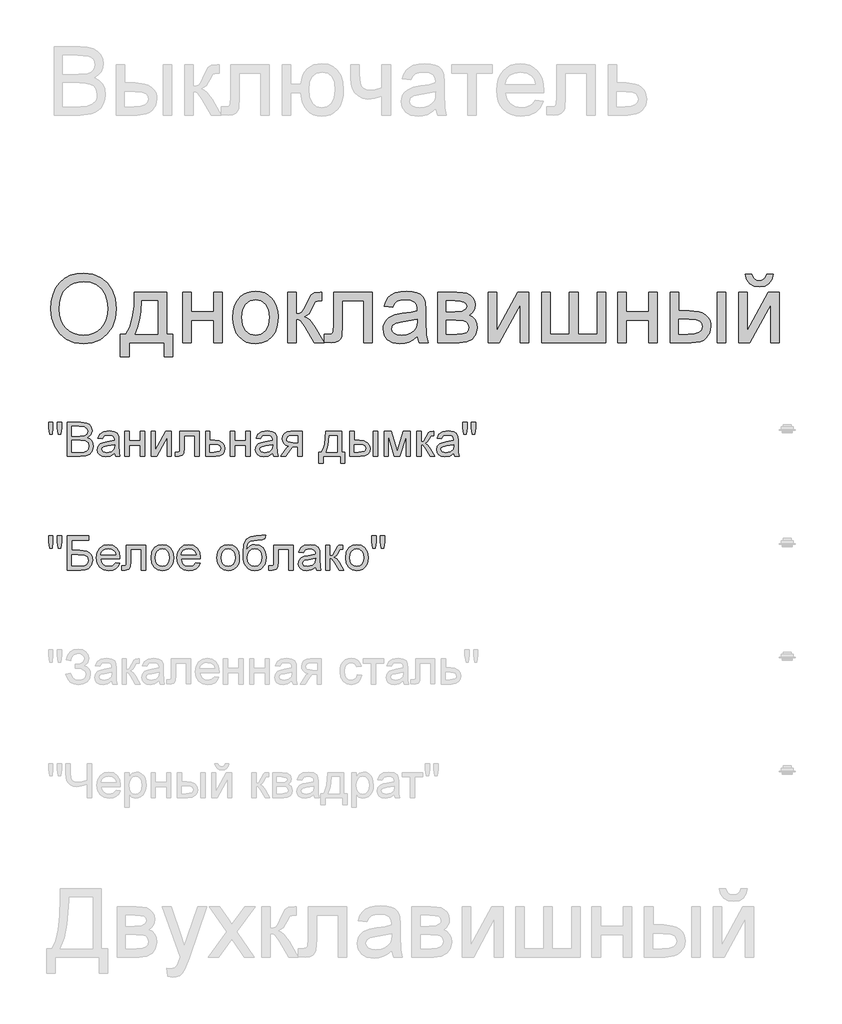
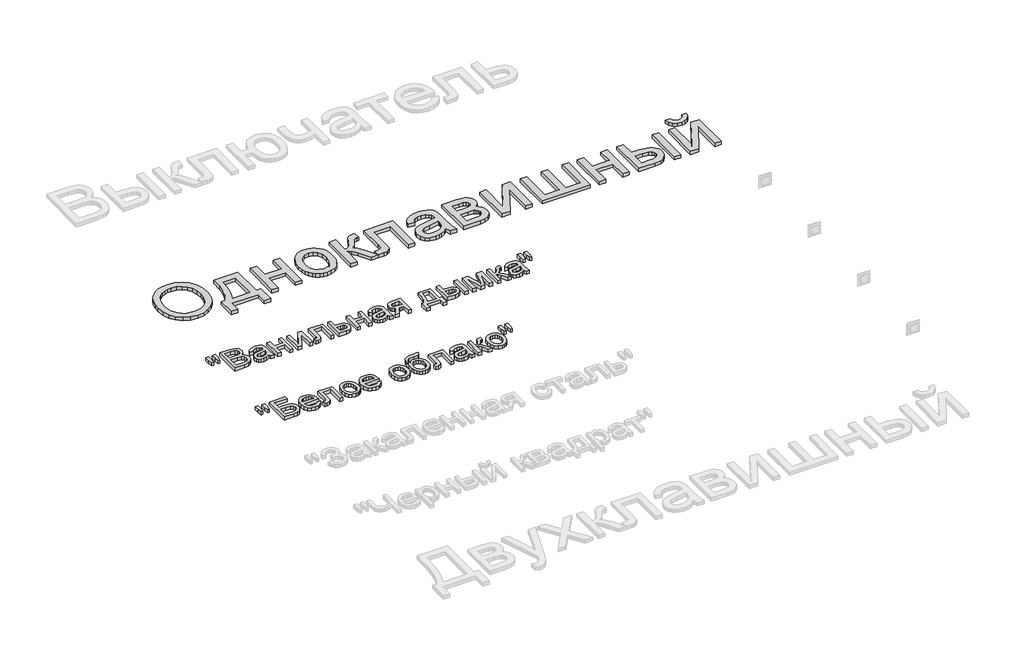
# One storey, part 136 of 168: 3 proxies.
"""IFC4 building model written with IfcOpenShell, lengths in millimetres."""

from ifc_helpers import new_model, si_unit, origin, origin_with_axes, place, context, project, spatial, polyline, outline, extrude, element, save

model = new_model("IFC4")

# Units and contexts
model_context = context("Model", 3, world=origin())
ifc_project = project(units=[si_unit("LENGTHUNIT", "METRE", prefix="MILLI")], contexts=[model_context])

# Site, building, storey
site = spatial("IfcSite", under=ifc_project)
building = spatial("IfcBuilding", under=site)
storey = spatial("IfcBuildingStorey", under=building, Name="Этаж 01", Elevation=0.0)

# Proxies
placement = place(None, origin())
element("IfcBuildingElementProxy", 1, Name="300 мм Arial 2", ObjectType="300 мм Arial 2", at=placement, inside=storey, context=model_context, shape_type="SweptSolid", body=[
    extrude(outline(polyline([(63584.967833, -20701.6943419), (63587.4786277, -20666.3454807), (63595.0110115, -20635.0525185), (63607.5649846, -20607.8154552), (63625.1405469, -20584.634291), (63646.6846363, -20566.1252281), (63671.1441904, -20552.9044689), (63698.5192094, -20544.9720134), (63728.8096932, -20542.3278616), (63768.3386135, -20547.2942685), (63803.7840438, -20562.1934893), (63833.2146034, -20585.9770603), (63854.6989119, -20617.5965178), (63867.8322991, -20655.5251515), (63872.2100949, -20698.2362511), (63867.6023729, -20741.5175679), (63853.7792069, -20779.9796305), (63831.5039521, -20811.6542703), (63801.5399636, -20834.5733186), (63766.398036, -20848.479258), (63728.588964, -20853.1145711), (63688.4530383, -20847.9918143), (63652.805273, -20832.623544), (63623.4482897, -20808.3985146), (63602.1847104, -20776.7054807), (63589.2720524, -20740.2391779), (63584.967833, -20701.6943419)]), holes=[polyline([(63622.6389493, -20702.0622239), (63624.5220453, -20727.0368128), (63630.1713332, -20749.2063016), (63639.586813, -20768.5706901), (63652.7684848, -20785.1299784), (63668.7920449, -20798.3921243), (63686.73319, -20807.8650857), (63706.5919199, -20813.5488625), (63728.3682348, -20815.4434548), (63750.5170301, -20813.5304684), (63770.6102849, -20807.7915093), (63788.6479989, -20798.2265774), (63804.6301724, -20784.8356728), (63817.7152751, -20767.9268966), (63827.061777, -20747.80835), (63832.6696782, -20724.480033), (63834.5389786, -20697.9419455), (63831.3384052, -20664.5934427), (63821.7366851, -20635.7698884), (63805.9821387, -20612.1978495), (63784.3230862, -20594.6038931), (63758.1942675, -20583.6502067), (63729.0304224, -20579.9989779), (63708.0105649, -20581.7579137), (63688.5082206, -20587.034721), (63670.5233895, -20595.8294), (63654.0560717, -20608.1419505), (63640.3110807, -20624.5655823), (63630.4932299, -20645.6935052), (63624.6025195, -20671.525719), (63622.6389493, -20702.0622239)])]), origin_with_axes(), (0.0, 0.0, 1.0), 20.0),
    extrude(outline(polyline([(63952.261217, -20627.0878733), (64093.5279032, -20627.0878733), (64093.5279032, -20810.7345653), (64121.7812404, -20810.7345653), (64121.7812404, -20909.6212456), (64084.1101241, -20909.6212456), (64084.1101241, -20848.4056816), (63928.7167693, -20848.4056816), (63928.7167693, -20909.6212456), (63891.045653, -20909.6212456), (63891.045653, -20810.7345653), (63914.5901007, -20810.7345653), (63931.7058105, -20779.8048865), (63943.6895665, -20738.8872116), (63950.5413687, -20687.9815405), (63952.261217, -20627.0878733)]), holes=[polyline([(63985.2234438, -20664.7589896), (63982.133235, -20710.8821947), (63976.3942759, -20750.5858591), (63968.0065664, -20783.8699826), (63956.9701066, -20810.7345653), (64055.8567869, -20810.7345653), (64055.8567869, -20664.7589896), (63985.2234438, -20664.7589896)])]), origin_with_axes(), (0.0, 0.0, 1.0), 20.0),
    extrude(outline(polyline([(64164.1612462, -20627.0878733), (64201.8323626, -20627.0878733), (64201.8323626, -20711.847885), (64300.7190429, -20711.847885), (64300.7190429, -20627.0878733), (64338.3901592, -20627.0878733), (64338.3901592, -20848.4056816), (64300.7190429, -20848.4056816), (64300.7190429, -20749.5190013), (64201.8323626, -20749.5190013), (64201.8323626, -20848.4056816), (64164.1612462, -20848.4056816), (64164.1612462, -20627.0878733)])), origin_with_axes(), (0.0, 0.0, 1.0), 20.0),
    extrude(outline(polyline([(64385.4790545, -20737.7467774), (64387.5162011, -20709.0841715), (64393.6276407, -20684.385494), (64403.8133735, -20663.6507451), (64418.0733993, -20646.8799246), (64432.4299942, -20636.160763), (64448.2765111, -20628.504219), (64465.6129501, -20623.9102925), (64484.4393113, -20622.3789837), (64505.2223447, -20624.2436856), (64524.0142169, -20629.8377912), (64540.8149277, -20639.1613005), (64555.6244773, -20652.2142135), (64567.7117001, -20668.5550719), (64576.3454307, -20687.7424172), (64581.525669, -20709.7762495), (64583.2524152, -20734.6565687), (64580.1989946, -20772.7139611), (64571.0387329, -20801.6846682), (64556.0383446, -20823.3805088), (64535.464544, -20839.6133019), (64511.0279825, -20849.7392538), (64484.4393113, -20853.1145711), (64463.3527751, -20851.256767), (64444.386159, -20845.6833548), (64427.5394629, -20836.3943344), (64412.8126868, -20823.3897059), (64400.8542227, -20806.8901984), (64392.3124626, -20787.1165412), (64387.1874066, -20764.0687342), (64385.4790545, -20737.7467774)]), holes=[polyline([(64423.1501709, -20737.673201), (64427.5095725, -20771.7666649), (64440.5877774, -20796.0560737), (64460.2694642, -20810.5966095), (64484.4393113, -20815.4434548), (64508.4987937, -20810.5690184), (64528.1436923, -20795.9457091), (64541.2218972, -20771.3344036), (64545.5812988, -20736.4959786), (64541.1943061, -20703.3957961), (64528.0333277, -20679.4374812), (64508.360838, -20664.8969453), (64484.4393113, -20660.0501), (64460.2694642, -20664.8785512), (64440.5877774, -20679.3639048), (64427.5095725, -20703.5981312), (64423.1501709, -20737.673201)])]), origin_with_axes(), (0.0, 0.0, 1.0), 20.0),
    extrude(outline(polyline([(64625.632421, -20627.0878733), (64663.3035373, -20627.0878733), (64663.3035373, -20721.265664), (64678.6258224, -20719.5734069), (64688.5402422, -20714.4966353), (64697.3142278, -20701.2528835), (64709.2152103, -20675.0596854), (64726.3952995, -20641.0306009), (64741.5520377, -20629.9573528), (64769.1063991, -20627.0878733), (64776.3168862, -20627.0878733), (64776.3168862, -20664.9797188), (64766.1633432, -20664.7589896), (64747.7692434, -20668.7321151), (64734.8197972, -20693.5273616), (64719.6262708, -20720.345959), (64698.3259032, -20733.4793463), (64710.263674, -20738.7814455), (64722.0910801, -20748.1394438), (64745.4147986, -20779.0231373), (64785.7346653, -20848.4056816), (64742.9132011, -20848.4056816), (64703.4026748, -20780.4946653), (64683.537047, -20751.7630814), (64674.2480267, -20746.5483542), (64663.3035373, -20744.8101117), (64663.3035373, -20848.4056816), (64625.632421, -20848.4056816), (64625.632421, -20627.0878733)])), origin_with_axes(), (0.0, 0.0, 1.0), 20.0),
    extrude(outline(polyline([(64828.1146711, -20627.0878733), (64997.6346945, -20627.0878733), (64997.6346945, -20848.1849524), (64959.9635782, -20848.1849524), (64959.9635782, -20664.7589896), (64865.7857875, -20664.7589896), (64865.7857875, -20770.3411222), (64863.2474017, -20819.0486984), (64858.4925269, -20830.0759612), (64849.3046741, -20839.6133019), (64835.3619464, -20846.2075866), (64816.3424473, -20848.4056816), (64785.7346653, -20846.4926952), (64785.7346653, -20810.7345653), (64802.5836607, -20810.7345653), (64819.6165971, -20808.4169087), (64826.422414, -20801.0592688), (64828.1146711, -20768.2074066), (64828.1146711, -20627.0878733)])), origin_with_axes(), (0.0, 0.0, 1.0), 20.0),
    extrude(outline(polyline([(65195.4080551, -20820.1523443), (65177.4094285, -20835.584994), (65158.877373, -20845.6833548), (65139.3888243, -20851.256767), (65118.5207181, -20853.1145711), (65087.0392164, -20848.6448049), (65063.8166655, -20835.2355061), (65049.4968588, -20814.8732377), (65044.7235899, -20789.5445623), (65046.5262117, -20773.9279716), (65051.934077, -20759.7461207), (65060.2758013, -20747.6060149), (65070.8799998, -20738.1146594), (65097.2571388, -20725.7538244), (65129.8514836, -20720.0884417), (65168.3687285, -20714.1287533), (65195.1873259, -20707.1389954), (65195.4080551, -20698.7512859), (65192.8144871, -20681.9390788), (65185.0337829, -20670.9394071), (65167.6329645, -20662.7724268), (65143.389541, -20660.0501), (65120.9487393, -20661.8619189), (65105.2769663, -20667.2973753), (65094.5899944, -20677.3497509), (65087.1035957, -20693.0123268), (65049.4324794, -20688.3034373), (65055.9715819, -20667.7020455), (65065.7296518, -20651.5152378), (65079.6171971, -20639.1360086), (65098.5447258, -20629.9573528), (65121.6937003, -20624.273576), (65148.2455833, -20622.3789837), (65173.7122145, -20624.0528468), (65193.8997389, -20629.074436), (65209.1208565, -20636.625214), (65219.6882668, -20645.8866432), (65226.6964188, -20657.3369703), (65231.2397615, -20671.4544419), (65233.0791714, -20704.4166687), (65233.0791714, -20751.2848348), (65234.9921578, -20816.7310418), (65242.4969505, -20848.4056816), (65204.8258342, -20848.4056816), (65195.4080551, -20820.1523443)]), holes=[polyline([(65195.4080551, -20744.8101117), (65134.6339495, -20756.3616064), (65102.2235458, -20762.4684475), (65087.5450541, -20772.4012614), (65082.3947062, -20786.895812), (65085.1998064, -20798.0978187), (65093.6151071, -20807.2764745), (65107.4566671, -20813.4017097), (65126.5405456, -20815.4434548), (65146.7740554, -20813.1901776), (65164.6531203, -20806.4303459), (65179.1476709, -20796.4699409), (65189.2276376, -20784.6149436), (65193.6974039, -20772.4012614), (65195.1873259, -20755.4786896), (65195.4080551, -20744.8101117)])]), origin_with_axes(), (0.0, 0.0, 1.0), 20.0),
    extrude(outline(polyline([(65284.8769564, -20627.0878733), (65367.8711345, -20627.0878733), (65394.5517762, -20628.3478691), (65413.3781373, -20632.1278566), (65427.2288944, -20639.2647673), (65438.9827241, -20650.5955328), (65447.0117487, -20665.3567978), (65449.6880902, -20682.7852073), (65448.0694094, -20696.8291025), (65443.2133671, -20708.9416172), (65435.1015691, -20719.1779337), (65423.7156213, -20727.5932344), (65437.658349, -20735.4199238), (65449.0259026, -20748.0106851), (65456.5858776, -20764.3722368), (65459.1058693, -20783.5112976), (65452.7231167, -20812.2244873), (65437.5479844, -20832.439603), (65413.5252901, -20844.4141619), (65380.5998515, -20848.4056816), (65284.8769564, -20848.4056816), (65284.8769564, -20627.0878733)]), holes=[polyline([(65322.5480727, -20711.847885), (65359.7777306, -20711.847885), (65390.4958772, -20709.9348986), (65405.4318862, -20702.2829531), (65410.370702, -20695.9553828), (65412.0169739, -20688.4505901), (65409.1291002, -20677.2117951), (65400.4654792, -20669.9829139), (65384.8121003, -20666.0649707), (65360.954953, -20664.7589896), (65322.5480727, -20664.7589896), (65322.5480727, -20711.847885)]), polyline([(65322.5480727, -20810.7345653), (65368.7540513, -20810.7345653), (65393.9355738, -20809.033111), (65409.7361055, -20803.9287484), (65418.2157855, -20794.648925), (65421.434753, -20780.4210889), (65419.8252692, -20770.9941127), (65414.996818, -20762.2845065), (65407.5839958, -20755.4694925), (65398.2213991, -20751.7262932), (65365.0752313, -20749.5190013), (65322.5480727, -20749.5190013), (65322.5480727, -20810.7345653)])]), origin_with_axes(), (0.0, 0.0, 1.0), 20.0),
    extrude(outline(polyline([(65506.1947647, -20627.0878733), (65543.865881, -20627.0878733), (65543.865881, -20795.8721327), (65636.4249909, -20627.0878733), (65685.1325671, -20627.0878733), (65685.1325671, -20848.4056816), (65647.4614508, -20848.4056816), (65647.4614508, -20680.6514918), (65555.490952, -20848.4056816), (65506.1947647, -20848.4056816), (65506.1947647, -20627.0878733)])), origin_with_axes(), (0.0, 0.0, 1.0), 20.0),
    extrude(outline(polyline([(65741.6392416, -20627.0878733), (65779.3103579, -20627.0878733), (65779.3103579, -20810.7345653), (65864.0703696, -20810.7345653), (65864.0703696, -20627.0878733), (65901.7414859, -20627.0878733), (65901.7414859, -20810.7345653), (65986.5014976, -20810.7345653), (65986.5014976, -20627.0878733), (66024.1726139, -20627.0878733), (66024.1726139, -20848.4056816), (65741.6392416, -20848.4056816), (65741.6392416, -20627.0878733)])), origin_with_axes(), (0.0, 0.0, 1.0), 20.0),
    extrude(outline(polyline([(66075.9703988, -20627.0878733), (66113.6415151, -20627.0878733), (66113.6415151, -20711.847885), (66212.5281954, -20711.847885), (66212.5281954, -20627.0878733), (66250.1993117, -20627.0878733), (66250.1993117, -20848.4056816), (66212.5281954, -20848.4056816), (66212.5281954, -20749.5190013), (66113.6415151, -20749.5190013), (66113.6415151, -20848.4056816), (66075.9703988, -20848.4056816), (66075.9703988, -20627.0878733)])), origin_with_axes(), (0.0, 0.0, 1.0), 20.0),
    extrude(outline(polyline([(66513.8971258, -20627.0878733), (66551.5682421, -20627.0878733), (66551.5682421, -20848.4056816), (66513.8971258, -20848.4056816), (66513.8971258, -20627.0878733)])), origin_with_axes(), (0.0, 0.0, 1.0), 20.0),
    extrude(outline(polyline([(66306.7059862, -20627.0878733), (66344.3771025, -20627.0878733), (66344.3771025, -20707.1389954), (66390.9509631, -20707.1389954), (66431.2064504, -20711.857082), (66447.4231486, -20717.7546902), (66461.0324831, -20726.0113418), (66471.7999293, -20736.3419281), (66479.4909622, -20748.4613405), (66484.105582, -20762.3695792), (66485.6437886, -20778.0666441), (66480.4842436, -20805.0231973), (66465.0056087, -20827.7675016), (66453.1437136, -20836.7967054), (66438.1962083, -20843.2461366), (66399.0443669, -20848.4056816), (66306.7059862, -20848.4056816), (66306.7059862, -20627.0878733)]), holes=[polyline([(66344.3771025, -20810.7345653), (66383.0782884, -20810.7345653), (66413.0790651, -20808.7571995), (66433.0366633, -20802.8251024), (66444.2386701, -20792.6991504), (66447.9726723, -20778.1402205), (66445.2043603, -20765.8345678), (66436.8994243, -20754.9636548), (66419.1399209, -20747.3484975), (66388.0079071, -20744.8101117), (66344.3771025, -20744.8101117), (66344.3771025, -20810.7345653)])]), origin_with_axes(), (0.0, 0.0, 1.0), 20.0),
    extrude(outline(polyline([(66608.0749166, -20627.0878733), (66645.7460329, -20627.0878733), (66645.7460329, -20795.8721327), (66738.3051429, -20627.0878733), (66787.0127191, -20627.0878733), (66787.0127191, -20848.4056816), (66749.3416028, -20848.4056816), (66749.3416028, -20680.6514918), (66657.371104, -20848.4056816), (66608.0749166, -20848.4056816), (66608.0749166, -20627.0878733)])), origin_with_axes(), (0.0, 0.0, 1.0), 20.0),
    extrude(outline(polyline([(66730.5060446, -20547.0367511), (66758.7593818, -20547.0367511), (66752.6801319, -20571.160613), (66740.4756467, -20588.9385104), (66722.6977493, -20599.8921968), (66699.8982626, -20603.5434256), (66675.1581984, -20599.9197879), (66655.9731524, -20589.048875), (66642.8581593, -20571.2985687), (66636.3282538, -20547.0367511), (66664.5815911, -20547.0367511), (66668.5547166, -20559.4435714), (66675.1765925, -20568.2635422), (66684.484007, -20573.5334518), (66696.5137482, -20575.2900883), (66710.0885939, -20573.5886341), (66719.9110431, -20568.4842714), (66726.5329191, -20559.7194829), (66730.5060446, -20547.0367511)])), origin_with_axes(), (0.0, 0.0, 1.0), 20.0),
])
element("IfcBuildingElementProxy", 2, Name="150", ObjectType="150", at=placement, inside=storey, context=model_context, shape_type="SweptSolid", body=[
    extrude(outline(polyline([(63580.1485789, -21251.873446), (63575.550054, -21222.7739802), (63575.550054, -21197.7212163), (63594.3856121, -21197.7212163), (63594.3856121, -21222.7739802), (63590.2653338, -21251.873446), (63580.1485789, -21251.873446)])), origin_with_axes(), (0.0, 0.0, 1.0), 20.0),
    extrude(outline(polyline([(63617.7093306, -21251.873446), (63613.2211703, -21222.7739802), (63613.2211703, -21197.7212163), (63632.0567284, -21197.7212163), (63632.0567284, -21222.7739802), (63627.6421445, -21251.873446), (63617.7093306, -21251.873446)])), origin_with_axes(), (0.0, 0.0, 1.0), 20.0),
    extrude(outline(polyline([(63657.9556209, -21348.4056816), (63657.9556209, -21197.7212163), (63715.4555767, -21197.7212163), (63743.6169435, -21202.1541944), (63753.0807078, -21207.7781904), (63760.2452096, -21215.7842223), (63766.2600803, -21235.0612389), (63761.2017028, -21252.6643923), (63745.9162059, -21266.0001146), (63756.5893823, -21271.5735269), (63764.4758526, -21280.0532069), (63769.3456905, -21290.8781346), (63770.9689698, -21303.48729), (63766.5359918, -21323.7391938), (63755.5547142, -21338.160168), (63739.1655713, -21345.8121135), (63715.0141183, -21348.4056816), (63657.9556209, -21348.4056816)]), holes=[polyline([(63676.791179, -21258.9367803), (63711.1881456, -21258.9367803), (63731.2745025, -21257.3180996), (63743.3594261, -21250.3467358), (63747.4245221, -21238.0778712), (63743.6353376, -21225.7906126), (63732.7828187, -21218.5249432), (63708.5761834, -21216.5567745), (63676.791179, -21216.5567745), (63676.791179, -21258.9367803)]), polyline([(63676.791179, -21329.5701234), (63715.4187885, -21329.5701234), (63729.3983043, -21328.8343594), (63741.2257105, -21324.7324752), (63749.061597, -21316.3631598), (63752.1334117, -21303.671231), (63748.5281681, -21289.0295275), (63736.8479148, -21280.2923302), (63713.5793786, -21277.7723385), (63676.791179, -21277.7723385), (63676.791179, -21329.5701234)])]), origin_with_axes(), (0.0, 0.0, 1.0), 20.0),
    extrude(outline(polyline([(63865.1467606, -21334.279013), (63846.8814195, -21347.0445182), (63826.7030921, -21350.7601263), (63810.9623412, -21348.5252432), (63799.3510657, -21341.8205939), (63792.1911624, -21331.6394596), (63789.804528, -21318.975122), (63793.4097715, -21304.0759012), (63802.8827329, -21293.2601705), (63816.0713024, -21287.079753), (63832.3684748, -21284.2470616), (63865.036396, -21277.7723385), (63865.1467606, -21273.5784838), (63863.8499765, -21265.1723802), (63859.9596244, -21259.6725443), (63851.2592153, -21255.5890542), (63839.1375035, -21254.2278908), (63820.0812162, -21257.8515285), (63810.9945309, -21270.7090042), (63792.1589727, -21268.3545594), (63800.3075589, -21249.9604597), (63816.7150959, -21239.1815172), (63841.5655247, -21235.3923327), (63864.3926025, -21238.7400588), (63877.2868664, -21247.1461624), (63883.0626137, -21259.9300617), (63883.9823187, -21276.4111751), (63883.9823187, -21299.8452582), (63884.9388119, -21332.5683617), (63888.6912083, -21348.4056816), (63869.8556501, -21348.4056816), (63865.1467606, -21334.279013)]), holes=[polyline([(63865.1467606, -21296.6078966), (63834.7597078, -21302.383644), (63818.5545059, -21305.4370645), (63811.2152601, -21310.4034715), (63808.6400861, -21317.6507468), (63814.2502865, -21327.841078), (63830.7130058, -21331.9245682), (63849.7692932, -21327.4180137), (63862.0565518, -21316.5103126), (63865.036396, -21301.9421856), (63865.1467606, -21296.6078966)])]), origin_with_axes(), (0.0, 0.0, 1.0), 20.0),
    extrude(outline(polyline([(63909.8812112, -21237.7467774), (63928.7167693, -21237.7467774), (63928.7167693, -21280.1267833), (63978.1601095, -21280.1267833), (63978.1601095, -21237.7467774), (63996.9956676, -21237.7467774), (63996.9956676, -21348.4056816), (63978.1601095, -21348.4056816), (63978.1601095, -21298.9623414), (63928.7167693, -21298.9623414), (63928.7167693, -21348.4056816), (63909.8812112, -21348.4056816), (63909.8812112, -21237.7467774)])), origin_with_axes(), (0.0, 0.0, 1.0), 20.0),
    extrude(outline(polyline([(64025.2490049, -21237.7467774), (64044.084563, -21237.7467774), (64044.084563, -21322.1389071), (64090.364118, -21237.7467774), (64114.7179061, -21237.7467774), (64114.7179061, -21348.4056816), (64095.8823479, -21348.4056816), (64095.8823479, -21264.5285867), (64049.8970985, -21348.4056816), (64025.2490049, -21348.4056816), (64025.2490049, -21237.7467774)])), origin_with_axes(), (0.0, 0.0, 1.0), 20.0),
    extrude(outline(polyline([(64152.3890224, -21237.7467774), (64237.1490341, -21237.7467774), (64237.1490341, -21348.295317), (64218.3134759, -21348.295317), (64218.3134759, -21256.5823356), (64171.2245806, -21256.5823356), (64171.2245806, -21309.3734019), (64169.9553877, -21333.72719), (64162.9840239, -21344.0094917), (64146.5029105, -21348.4056816), (64131.1990195, -21347.4491884), (64131.1990195, -21329.5701234), (64139.6235172, -21329.5701234), (64148.1399854, -21328.4112951), (64151.5428938, -21324.7324752), (64152.3890224, -21308.3065441), (64152.3890224, -21237.7467774)])), origin_with_axes(), (0.0, 0.0, 1.0), 20.0),
    extrude(outline(polyline([(64265.4023713, -21237.7467774), (64284.2379295, -21237.7467774), (64284.2379295, -21277.7723385), (64305.9429672, -21277.7723385), (64324.7601312, -21280.1313818), (64338.6844648, -21287.2085117), (64347.2929034, -21298.433511), (64350.162383, -21313.2361628), (64347.7205663, -21326.7144394), (64340.395116, -21338.0865916), (64327.6985887, -21345.8259091), (64309.1435405, -21348.4056816), (64265.4023713, -21348.4056816), (64265.4023713, -21237.7467774)]), holes=[polyline([(64284.2379295, -21329.5701234), (64301.8226888, -21329.5701234), (64324.539402, -21325.615392), (64329.6299692, -21320.552416), (64331.3268249, -21313.272951), (64326.3052356, -21301.6846682), (64318.2348244, -21297.8770895), (64304.066769, -21296.6078966), (64284.2379295, -21296.6078966), (64284.2379295, -21329.5701234)])]), origin_with_axes(), (0.0, 0.0, 1.0), 20.0),
    extrude(outline(polyline([(64373.7068307, -21237.7467774), (64392.5423889, -21237.7467774), (64392.5423889, -21280.1267833), (64441.985729, -21280.1267833), (64441.985729, -21237.7467774), (64460.8212872, -21237.7467774), (64460.8212872, -21348.4056816), (64441.985729, -21348.4056816), (64441.985729, -21298.9623414), (64392.5423889, -21298.9623414), (64392.5423889, -21348.4056816), (64373.7068307, -21348.4056816), (64373.7068307, -21237.7467774)])), origin_with_axes(), (0.0, 0.0, 1.0), 20.0),
    extrude(outline(polyline([(64559.7079675, -21334.279013), (64541.4426264, -21347.0445182), (64521.264299, -21350.7601263), (64505.5235481, -21348.5252432), (64493.9122726, -21341.8205939), (64486.7523693, -21331.6394596), (64484.3657349, -21318.975122), (64487.9709784, -21304.0759012), (64497.4439398, -21293.2601705), (64510.6325093, -21287.079753), (64526.9296817, -21284.2470616), (64559.5976029, -21277.7723385), (64559.7079675, -21273.5784838), (64558.4111834, -21265.1723802), (64554.5208313, -21259.6725443), (64545.8204221, -21255.5890542), (64533.6987104, -21254.2278908), (64514.6424231, -21257.8515285), (64505.5557378, -21270.7090042), (64486.7201796, -21268.3545594), (64494.8687658, -21249.9604597), (64511.2763028, -21239.1815172), (64536.1267316, -21235.3923327), (64558.9538094, -21238.7400588), (64571.8480733, -21247.1461624), (64577.6238206, -21259.9300617), (64578.5435256, -21276.4111751), (64578.5435256, -21299.8452582), (64579.5000188, -21332.5683617), (64583.2524152, -21348.4056816), (64564.416857, -21348.4056816), (64559.7079675, -21334.279013)]), holes=[polyline([(64559.7079675, -21296.6078966), (64529.3209147, -21302.383644), (64513.1157128, -21305.4370645), (64505.776467, -21310.4034715), (64503.201293, -21317.6507468), (64508.8114934, -21327.841078), (64525.2742127, -21331.9245682), (64544.3305001, -21327.4180137), (64556.6177587, -21316.5103126), (64559.5976029, -21301.9421856), (64559.7079675, -21296.6078966)])]), origin_with_axes(), (0.0, 0.0, 1.0), 20.0),
    extrude(outline(polyline([(64689.2024298, -21237.7467774), (64689.2024298, -21348.4056816), (64670.3668716, -21348.4056816), (64670.3668716, -21306.0256757), (64660.1029639, -21306.0256757), (64646.1234481, -21308.4169087), (64632.9900609, -21324.4933519), (64617.9804755, -21348.4056816), (64596.2018614, -21348.4056816), (64615.1109959, -21318.1657816), (64623.4619172, -21307.3132627), (64631.1506509, -21302.4940086), (64618.2747811, -21298.5484742), (64609.224884, -21291.0528785), (64603.872201, -21281.0832765), (64602.0879733, -21269.7157228), (64604.5251915, -21256.8214589), (64611.8368462, -21246.6127335), (64623.7654199, -21239.9632664), (64640.0533952, -21237.7467774), (64689.2024298, -21237.7467774)]), holes=[polyline([(64670.3668716, -21256.5823356), (64645.5348369, -21256.5823356), (64632.7095509, -21257.672186), (64625.4300859, -21260.9417372), (64620.9235315, -21271.1504626), (64622.583599, -21278.32876), (64627.5638015, -21283.3089625), (64651.0898551, -21287.1901176), (64670.3668716, -21287.1901176), (64670.3668716, -21256.5823356)])]), origin_with_axes(), (0.0, 0.0, 1.0), 20.0),
    extrude(outline(polyline([(64792.7979996, -21237.7467774), (64863.4313427, -21237.7467774), (64863.4313427, -21329.5701234), (64877.5580113, -21329.5701234), (64877.5580113, -21379.0134636), (64858.7224531, -21379.0134636), (64858.7224531, -21348.4056816), (64781.0257758, -21348.4056816), (64781.0257758, -21379.0134636), (64762.1902176, -21379.0134636), (64762.1902176, -21329.5701234), (64773.9624415, -21329.5701234), (64782.5202964, -21314.105284), (64788.5121744, -21293.6464466), (64792.7979996, -21237.7467774)]), holes=[polyline([(64809.279113, -21256.5823356), (64804.864529, -21299.4957703), (64795.1524444, -21329.5701234), (64844.5957845, -21329.5701234), (64844.5957845, -21256.5823356), (64809.279113, -21256.5823356)])]), origin_with_axes(), (0.0, 0.0, 1.0), 20.0),
    extrude(outline(polyline([(65002.3435841, -21237.7467774), (65021.1791422, -21237.7467774), (65021.1791422, -21348.4056816), (65002.3435841, -21348.4056816), (65002.3435841, -21237.7467774)])), origin_with_axes(), (0.0, 0.0, 1.0), 20.0),
    extrude(outline(polyline([(64898.7480142, -21237.7467774), (64917.5835724, -21237.7467774), (64917.5835724, -21277.7723385), (64940.8705027, -21277.7723385), (64960.9982463, -21280.1313818), (64975.9112627, -21287.2085117), (64985.1405023, -21298.433511), (64988.2169154, -21313.2361628), (64985.637143, -21326.7144394), (64977.8978255, -21338.0865916), (64964.4931253, -21345.8259091), (64944.9172046, -21348.4056816), (64898.7480142, -21348.4056816), (64898.7480142, -21237.7467774)]), holes=[polyline([(64917.5835724, -21329.5701234), (64936.9341653, -21329.5701234), (64961.9133528, -21325.615392), (64967.5143562, -21320.552416), (64969.3813573, -21313.272951), (64963.8447333, -21301.6846682), (64954.9649816, -21297.8770895), (64939.3989747, -21296.6078966), (64917.5835724, -21296.6078966), (64917.5835724, -21329.5701234)])]), origin_with_axes(), (0.0, 0.0, 1.0), 20.0),
    extrude(outline(polyline([(65049.4324794, -21237.7467774), (65081.8428832, -21237.7467774), (65106.8220707, -21326.3327619), (65133.7510327, -21237.7467774), (65164.8002731, -21237.7467774), (65164.8002731, -21348.4056816), (65145.964715, -21348.4056816), (65145.964715, -21259.3046623), (65118.8886001, -21348.4056816), (65094.1669301, -21348.4056816), (65068.2680376, -21255.0372312), (65068.2680376, -21348.4056816), (65049.4324794, -21348.4056816), (65049.4324794, -21237.7467774)])), origin_with_axes(), (0.0, 0.0, 1.0), 20.0),
    extrude(outline(polyline([(65193.0536104, -21237.7467774), (65211.8891685, -21237.7467774), (65211.8891685, -21284.8356728), (65224.5075209, -21281.4511584), (65234.845005, -21261.7326835), (65243.4350496, -21244.7181412), (65251.0134187, -21239.1815172), (65264.7905994, -21237.7467774), (65268.395843, -21237.7467774), (65268.395843, -21256.6927002), (65263.3190714, -21256.5823356), (65254.1220216, -21258.5688983), (65247.6472984, -21270.9665216), (65240.0505352, -21284.3758203), (65229.4003515, -21290.9425139), (65241.2829399, -21298.2725627), (65252.9447992, -21313.7144094), (65273.1047325, -21348.4056816), (65251.6940004, -21348.4056816), (65231.9387373, -21314.4501734), (65222.0059234, -21300.0843815), (65211.8891685, -21296.6078966), (65211.8891685, -21348.4056816), (65193.0536104, -21348.4056816), (65193.0536104, -21237.7467774)])), origin_with_axes(), (0.0, 0.0, 1.0), 20.0),
    extrude(outline(polyline([(65355.5102994, -21334.279013), (65337.2449584, -21347.0445182), (65317.0666309, -21350.7601263), (65301.3258801, -21348.5252432), (65289.7146046, -21341.8205939), (65282.5547013, -21331.6394596), (65280.1680668, -21318.975122), (65283.7733104, -21304.0759012), (65293.2462717, -21293.2601705), (65306.4348413, -21287.079753), (65322.7320137, -21284.2470616), (65355.3999348, -21277.7723385), (65355.5102994, -21273.5784838), (65354.2135154, -21265.1723802), (65350.3231633, -21259.6725443), (65341.6227541, -21255.5890542), (65329.5010424, -21254.2278908), (65310.444755, -21257.8515285), (65301.3580697, -21270.7090042), (65282.5225116, -21268.3545594), (65290.6710978, -21249.9604597), (65307.0786348, -21239.1815172), (65331.9290635, -21235.3923327), (65354.7561413, -21238.7400588), (65367.6504053, -21247.1461624), (65373.4261526, -21259.9300617), (65374.3458576, -21276.4111751), (65374.3458576, -21299.8452582), (65375.3023508, -21332.5683617), (65379.0547471, -21348.4056816), (65360.219189, -21348.4056816), (65355.5102994, -21334.279013)]), holes=[polyline([(65355.5102994, -21296.6078966), (65325.1232466, -21302.383644), (65308.9180447, -21305.4370645), (65301.5787989, -21310.4034715), (65299.003625, -21317.6507468), (65304.6138254, -21327.841078), (65321.0765447, -21331.9245682), (65340.132832, -21327.4180137), (65352.4200907, -21316.5103126), (65355.3999348, -21301.9421856), (65355.5102994, -21296.6078966)])]), origin_with_axes(), (0.0, 0.0, 1.0), 20.0),
    extrude(outline(polyline([(65400.1343854, -21251.873446), (65395.5358605, -21222.7739802), (65395.5358605, -21197.7212163), (65414.3714187, -21197.7212163), (65414.3714187, -21222.7739802), (65410.2511403, -21251.873446), (65400.1343854, -21251.873446)])), origin_with_axes(), (0.0, 0.0, 1.0), 20.0),
    extrude(outline(polyline([(65437.6951372, -21251.873446), (65433.2069768, -21222.7739802), (65433.2069768, -21197.7212163), (65452.042535, -21197.7212163), (65452.042535, -21222.7739802), (65447.627951, -21251.873446), (65437.6951372, -21251.873446)])), origin_with_axes(), (0.0, 0.0, 1.0), 20.0),
])
element("IfcBuildingElementProxy", 3, Name="150", ObjectType="150", at=placement, inside=storey, context=model_context, shape_type="SweptSolid", body=[
    extrude(outline(polyline([(63580.1485789, -21751.873446), (63575.550054, -21722.7739802), (63575.550054, -21697.7212163), (63594.3856121, -21697.7212163), (63594.3856121, -21722.7739802), (63590.2653338, -21751.873446), (63580.1485789, -21751.873446)])), origin_with_axes(), (0.0, 0.0, 1.0), 20.0),
    extrude(outline(polyline([(63617.7093306, -21751.873446), (63613.2211703, -21722.7739802), (63613.2211703, -21697.7212163), (63632.0567284, -21697.7212163), (63632.0567284, -21722.7739802), (63627.6421445, -21751.873446), (63617.7093306, -21751.873446)])), origin_with_axes(), (0.0, 0.0, 1.0), 20.0),
    extrude(outline(polyline([(63657.9556209, -21697.7212163), (63752.1334117, -21697.7212163), (63752.1334117, -21716.5567745), (63676.791179, -21716.5567745), (63676.791179, -21761.2912251), (63712.0710624, -21761.2912251), (63743.157091, -21765.1171979), (63753.5589544, -21770.6446248), (63761.6615553, -21779.5749603), (63766.8762826, -21791.0712726), (63768.614525, -21804.2966303), (63763.6665122, -21825.7625448), (63748.8960501, -21842.0781113), (63735.6247071, -21846.823789), (63715.4555767, -21848.4056816), (63657.9556209, -21848.4056816), (63657.9556209, -21697.7212163)]), holes=[polyline([(63676.791179, -21829.5701234), (63717.1478339, -21829.5701234), (63731.4124583, -21828.015822), (63741.6119866, -21823.3529177), (63747.7372218, -21815.5814105), (63749.7789669, -21804.7013005), (63745.1068655, -21789.9492325), (63732.102237, -21782.0765578), (63703.7201411, -21780.1267833), (63676.791179, -21780.1267833), (63676.791179, -21829.5701234)])]), origin_with_axes(), (0.0, 0.0, 1.0), 20.0),
    extrude(outline(polyline([(63869.6349209, -21815.4434548), (63888.1025971, -21817.7978996), (63881.4485315, -21831.713036), (63870.8305374, -21842.1148995), (63856.4877381, -21848.5988196), (63838.6592569, -21850.7601263), (63816.5587461, -21847.0307226), (63799.5534008, -21835.8425114), (63788.710079, -21817.9220597), (63785.0956384, -21793.9959345), (63788.7468672, -21769.2650674), (63799.7005536, -21750.7698), (63816.4759726, -21739.2366995), (63837.5923991, -21735.3923327), (63858.0512366, -21739.2275025), (63874.3989927, -21750.7330118), (63885.1181544, -21769.191491), (63888.6912083, -21793.8855699), (63888.5808437, -21798.9623414), (63803.9311966, -21798.9623414), (63807.1915508, -21813.0614189), (63814.7653213, -21823.4264941), (63825.6960151, -21829.8000497), (63839.0271389, -21831.9245682), (63857.4948151, -21827.9882308), (63869.6349209, -21815.4434548)]), holes=[polyline([(63803.9311966, -21780.1267833), (63869.8556501, -21780.1267833), (63867.3080673, -21770.1755753), (63862.3140692, -21763.0570587), (63851.3327917, -21756.4351828), (63837.5188227, -21754.2278908), (63824.8222954, -21755.9891259), (63814.3238629, -21761.272831), (63807.0260039, -21769.5087892), (63803.9311966, -21780.1267833)])]), origin_with_axes(), (0.0, 0.0, 1.0), 20.0),
    extrude(outline(polyline([(63916.9445455, -21737.7467774), (64001.7045572, -21737.7467774), (64001.7045572, -21848.295317), (63982.868999, -21848.295317), (63982.868999, -21756.5823356), (63935.7801036, -21756.5823356), (63935.7801036, -21809.3734019), (63934.5109108, -21833.72719), (63927.539547, -21844.0094917), (63911.0584336, -21848.4056816), (63895.7545426, -21847.4491884), (63895.7545426, -21829.5701234), (63904.1790403, -21829.5701234), (63912.6955084, -21828.4112951), (63916.0984169, -21824.7324752), (63916.9445455, -21808.3065441), (63916.9445455, -21737.7467774)])), origin_with_axes(), (0.0, 0.0, 1.0), 20.0),
    extrude(outline(polyline([(64025.2490049, -21793.0762295), (64029.323298, -21766.3955878), (64041.5461773, -21747.6428031), (64056.6477332, -21738.4549503), (64074.7291332, -21735.3923327), (64094.516586, -21739.1217364), (64110.3217163, -21750.3099476), (64120.6821929, -21768.0740494), (64124.1356852, -21791.5311251), (64122.6089749, -21810.5598213), (64118.0288441, -21825.0451749), (64110.5286499, -21835.8930952), (64100.2417496, -21844.0094917), (64088.0234688, -21849.0724677), (64074.7291332, -21850.7601263), (64054.7025571, -21847.0445182), (64038.915821, -21835.8976937), (64028.6657089, -21817.7611114), (64025.2490049, -21793.0762295)]), holes=[polyline([(64044.084563, -21793.0394413), (64046.2642638, -21810.0861732), (64052.8033663, -21822.2308776), (64062.6442097, -21829.5011455), (64074.7291332, -21831.9245682), (64086.7588745, -21829.48735), (64096.5813237, -21822.1756953), (64103.1204262, -21809.8700426), (64105.300127, -21792.4508301), (64103.1066306, -21775.9007388), (64096.5261414, -21763.9215814), (64086.6898966, -21756.6513134), (64074.7291332, -21754.2278908), (64062.6442097, -21756.6421164), (64052.8033663, -21763.8847932), (64046.2642638, -21776.0019064), (64044.084563, -21793.0394413)])]), origin_with_axes(), (0.0, 0.0, 1.0), 20.0),
    extrude(outline(polyline([(64222.8016363, -21815.4434548), (64241.2693124, -21817.7978996), (64234.6152469, -21831.713036), (64223.9972528, -21842.1148995), (64209.6544535, -21848.5988196), (64191.8259723, -21850.7601263), (64169.7254614, -21847.0307226), (64152.7201162, -21835.8425114), (64141.8767944, -21817.9220597), (64138.2623538, -21793.9959345), (64141.9135826, -21769.2650674), (64152.867269, -21750.7698), (64169.642688, -21739.2366995), (64190.7591145, -21735.3923327), (64211.217952, -21739.2275025), (64227.5657081, -21750.7330118), (64238.2848698, -21769.191491), (64241.8579236, -21793.8855699), (64241.747559, -21798.9623414), (64157.0979119, -21798.9623414), (64160.3582661, -21813.0614189), (64167.9320367, -21823.4264941), (64178.8627305, -21829.8000497), (64192.1938543, -21831.9245682), (64210.6615304, -21827.9882308), (64222.8016363, -21815.4434548)]), holes=[polyline([(64157.0979119, -21780.1267833), (64223.0223655, -21780.1267833), (64220.4747827, -21770.1755753), (64215.4807846, -21763.0570587), (64204.499507, -21756.4351828), (64190.6855381, -21754.2278908), (64177.9890107, -21755.9891259), (64167.4905783, -21761.272831), (64160.1927192, -21769.5087892), (64157.0979119, -21780.1267833)])]), origin_with_axes(), (0.0, 0.0, 1.0), 20.0),
    extrude(outline(polyline([(64314.8457115, -21793.0762295), (64318.9200046, -21766.3955878), (64331.1428839, -21747.6428031), (64346.2444398, -21738.4549503), (64364.3258398, -21735.3923327), (64384.1132926, -21739.1217364), (64399.9184229, -21750.3099476), (64410.2788995, -21768.0740494), (64413.7323918, -21791.5311251), (64412.2056815, -21810.5598213), (64407.6255507, -21825.0451749), (64400.1253565, -21835.8930952), (64389.8384562, -21844.0094917), (64377.6201754, -21849.0724677), (64364.3258398, -21850.7601263), (64344.2992637, -21847.0445182), (64328.5125276, -21835.8976937), (64318.2624155, -21817.7611114), (64314.8457115, -21793.0762295)]), holes=[polyline([(64333.6812696, -21793.0394413), (64335.8609704, -21810.0861732), (64342.4000729, -21822.2308776), (64352.2409163, -21829.5011455), (64364.3258398, -21831.9245682), (64376.3555811, -21829.48735), (64386.1780303, -21822.1756953), (64392.7171328, -21809.8700426), (64394.8968336, -21792.4508301), (64392.7033372, -21775.9007388), (64386.122848, -21763.9215814), (64376.2866032, -21756.6513134), (64364.3258398, -21754.2278908), (64352.2409163, -21756.6421164), (64342.4000729, -21763.8847932), (64335.8609704, -21776.0019064), (64333.6812696, -21793.0394413)])]), origin_with_axes(), (0.0, 0.0, 1.0), 20.0),
    extrude(outline(polyline([(64512.6190721, -21695.3667716), (64529.1001855, -21695.3667716), (64524.2441431, -21710.0636573), (64514.6424231, -21715.3795521), (64491.576222, -21716.5567745), (64460.5085875, -21720.897782), (64453.3808738, -21726.5447707), (64448.5892108, -21734.8037215), (64444.560903, -21759.4150269), (64460.8764695, -21741.3888092), (64470.7954878, -21736.8914518), (64481.9009255, -21735.3923327), (64501.4998388, -21739.2045098), (64517.401538, -21750.6410414), (64527.9413572, -21768.5798871), (64531.4546302, -21791.8990071), (64529.7117893, -21809.8792396), (64524.4832664, -21824.3094109), (64507.9469707, -21843.8623389), (64496.6529935, -21849.0356795), (64481.9009255, -21850.7601263), (64464.9001788, -21848.5390388), (64452.1576662, -21841.8757762), (64442.7812738, -21831.7498242), (64435.8788879, -21819.1406689), (64431.6298508, -21800.1533594), (64430.2135052, -21770.8929452), (64433.786559, -21734.7531377), (64444.5057207, -21712.7124076), (64462.6377045, -21701.4690142), (64488.449225, -21697.7212163), (64509.4184987, -21697.2981521), (64512.6190721, -21695.3667716)]), holes=[polyline([(64512.6190721, -21791.3103959), (64510.577327, -21776.48935), (64504.4520918, -21764.6205572), (64494.6112484, -21756.8260574), (64481.4226789, -21754.2278908), (64467.6730893, -21756.9732102), (64457.473561, -21765.2091684), (64451.1551877, -21778.0344544), (64449.0490633, -21794.5477575), (64451.3759169, -21810.5552228), (64458.3564778, -21822.304454), (64468.7491442, -21829.5195396), (64481.3123143, -21831.9245682), (64493.9398638, -21829.1424606), (64503.937057, -21820.7961378), (64510.4485683, -21807.8604872), (64512.6190721, -21791.3103959)])]), origin_with_axes(), (0.0, 0.0, 1.0), 20.0),
    extrude(outline(polyline([(64564.416857, -21737.7467774), (64649.1768687, -21737.7467774), (64649.1768687, -21848.295317), (64630.3413105, -21848.295317), (64630.3413105, -21756.5823356), (64583.2524152, -21756.5823356), (64583.2524152, -21809.3734019), (64581.9832223, -21833.72719), (64575.0118585, -21844.0094917), (64558.5307451, -21848.4056816), (64543.2268541, -21847.4491884), (64543.2268541, -21829.5701234), (64551.6513518, -21829.5701234), (64560.16782, -21828.4112951), (64563.5707284, -21824.7324752), (64564.416857, -21808.3065441), (64564.416857, -21737.7467774)])), origin_with_axes(), (0.0, 0.0, 1.0), 20.0),
    extrude(outline(polyline([(64748.063549, -21834.279013), (64729.7982079, -21847.0445182), (64709.6198805, -21850.7601263), (64693.8791296, -21848.5252432), (64682.2678542, -21841.8205939), (64675.1079508, -21831.6394596), (64672.7213164, -21818.975122), (64676.3265599, -21804.0759012), (64685.7995213, -21793.2601705), (64698.9880908, -21787.079753), (64715.2852632, -21784.2470616), (64747.9531844, -21777.7723385), (64748.063549, -21773.5784838), (64746.766765, -21765.1723802), (64742.8764129, -21759.6725443), (64734.1760037, -21755.5890542), (64722.0542919, -21754.2278908), (64702.9980046, -21757.8515285), (64693.9113193, -21770.7090042), (64675.0757612, -21768.3545594), (64683.2243473, -21749.9604597), (64699.6318843, -21739.1815172), (64724.4823131, -21735.3923327), (64747.3093909, -21738.7400588), (64760.2036548, -21747.1461624), (64765.9794022, -21759.9300617), (64766.8991071, -21776.4111751), (64766.8991071, -21799.8452582), (64767.8556003, -21832.5683617), (64771.6079967, -21848.4056816), (64752.7724385, -21848.4056816), (64748.063549, -21834.279013)]), holes=[polyline([(64748.063549, -21796.6078966), (64717.6764962, -21802.383644), (64701.4712943, -21805.4370645), (64694.1320485, -21810.4034715), (64691.5568745, -21817.6507468), (64697.167075, -21827.841078), (64713.6297942, -21831.9245682), (64732.6860816, -21827.4180137), (64744.9733402, -21816.5103126), (64747.9531844, -21801.9421856), (64748.063549, -21796.6078966)])]), origin_with_axes(), (0.0, 0.0, 1.0), 20.0),
    extrude(outline(polyline([(64792.7979996, -21737.7467774), (64811.6335578, -21737.7467774), (64811.6335578, -21784.8356728), (64824.2519102, -21781.4511584), (64834.5893943, -21761.7326835), (64843.1794388, -21744.7181412), (64850.7578079, -21739.1815172), (64864.5349887, -21737.7467774), (64868.1402322, -21737.7467774), (64868.1402322, -21756.6927002), (64863.0634607, -21756.5823356), (64853.8664108, -21758.5688983), (64847.3916877, -21770.9665216), (64839.7949245, -21784.3758203), (64829.1447407, -21790.9425139), (64841.0273292, -21798.2725627), (64852.6891884, -21813.7144094), (64872.8491218, -21848.4056816), (64851.4383896, -21848.4056816), (64831.6831265, -21814.4501734), (64821.7503126, -21800.0843815), (64811.6335578, -21796.6078966), (64811.6335578, -21848.4056816), (64792.7979996, -21848.4056816), (64792.7979996, -21737.7467774)])), origin_with_axes(), (0.0, 0.0, 1.0), 20.0),
    extrude(outline(polyline([(64879.9124561, -21793.0762295), (64883.9867492, -21766.3955878), (64896.2096285, -21747.6428031), (64911.3111844, -21738.4549503), (64929.3925844, -21735.3923327), (64949.1800372, -21739.1217364), (64964.9851674, -21750.3099476), (64975.3456441, -21768.0740494), (64978.7991364, -21791.5311251), (64977.2724261, -21810.5598213), (64972.6922952, -21825.0451749), (64965.1921011, -21835.8930952), (64954.9052008, -21844.0094917), (64942.68692, -21849.0724677), (64929.3925844, -21850.7601263), (64909.3660083, -21847.0445182), (64893.5792722, -21835.8976937), (64883.3291601, -21817.7611114), (64879.9124561, -21793.0762295)]), holes=[polyline([(64898.7480142, -21793.0394413), (64900.927715, -21810.0861732), (64907.4668175, -21822.2308776), (64917.3076609, -21829.5011455), (64929.3925844, -21831.9245682), (64941.4223257, -21829.48735), (64951.2447749, -21822.1756953), (64957.7838774, -21809.8700426), (64959.9635782, -21792.4508301), (64957.7700818, -21775.9007388), (64951.1895926, -21763.9215814), (64941.3533478, -21756.6513134), (64929.3925844, -21754.2278908), (64917.3076609, -21756.6421164), (64907.4668175, -21763.8847932), (64900.927715, -21776.0019064), (64898.7480142, -21793.0394413)])]), origin_with_axes(), (0.0, 0.0, 1.0), 20.0),
    extrude(outline(polyline([(64999.8787747, -21751.873446), (64995.2802498, -21722.7739802), (64995.2802498, -21697.7212163), (65014.1158079, -21697.7212163), (65014.1158079, -21722.7739802), (65009.9955296, -21751.873446), (64999.8787747, -21751.873446)])), origin_with_axes(), (0.0, 0.0, 1.0), 20.0),
    extrude(outline(polyline([(65037.4395264, -21751.873446), (65032.9513661, -21722.7739802), (65032.9513661, -21697.7212163), (65051.7869242, -21697.7212163), (65051.7869242, -21722.7739802), (65047.3723403, -21751.873446), (65037.4395264, -21751.873446)])), origin_with_axes(), (0.0, 0.0, 1.0), 20.0),
])

save(model, "model.ifc")
